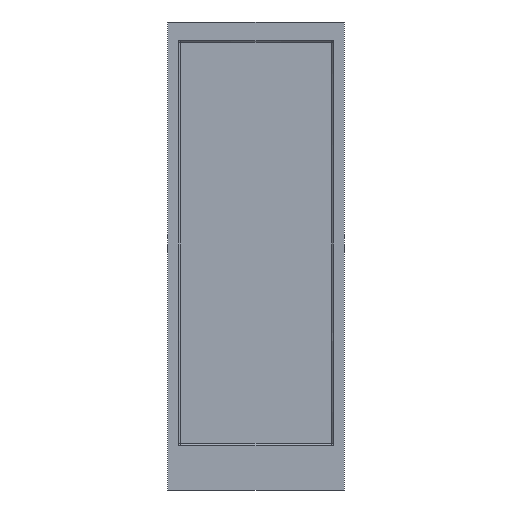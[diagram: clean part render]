
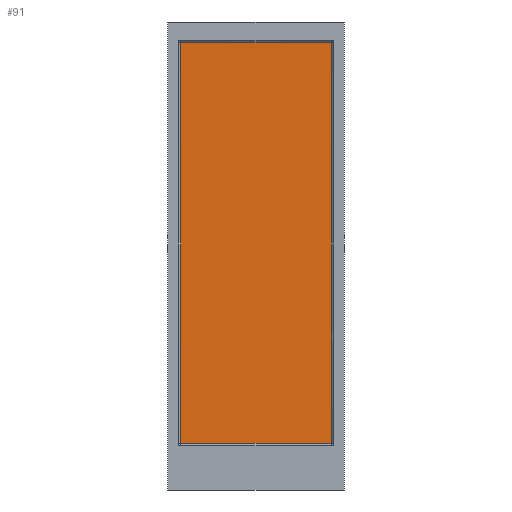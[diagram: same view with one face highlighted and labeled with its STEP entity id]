
A CAD part, front view. The second image highlights one B-rep face of the part: STEP entity #91.
In plain terms, the highlighted planar face has unit normal (0, -1, 0).
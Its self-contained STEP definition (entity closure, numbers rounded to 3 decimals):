
#91=ADVANCED_FACE('',(#201),#1626,.T.);
#201=FACE_OUTER_BOUND('',#311,.T.);
#311=EDGE_LOOP('',(#443,#444,#445,#446));
#443=ORIENTED_EDGE('',*,*,#965,.F.);
#444=ORIENTED_EDGE('',*,*,#962,.F.);
#445=ORIENTED_EDGE('',*,*,#959,.F.);
#446=ORIENTED_EDGE('',*,*,#955,.F.);
#955=EDGE_CURVE('',#1452,#1453,#1219,.T.);
#959=EDGE_CURVE('',#1453,#1456,#1223,.T.);
#962=EDGE_CURVE('',#1456,#1458,#1226,.T.);
#965=EDGE_CURVE('',#1458,#1452,#1229,.T.);
#1219=B_SPLINE_CURVE_WITH_KNOTS('',1,(#2000,#2001),.UNSPECIFIED.,.F.,.F.,
(2,2),(-4.,-3.),.UNSPECIFIED.);
#1223=B_SPLINE_CURVE_WITH_KNOTS('',1,(#2008,#2009),.UNSPECIFIED.,.F.,.F.,
(2,2),(-3.,-2.),.UNSPECIFIED.);
#1226=B_SPLINE_CURVE_WITH_KNOTS('',1,(#2014,#2015),.UNSPECIFIED.,.F.,.F.,
(2,2),(-2.,-1.),.UNSPECIFIED.);
#1229=B_SPLINE_CURVE_WITH_KNOTS('',1,(#2020,#2021),.UNSPECIFIED.,.F.,.F.,
(2,2),(-1.,0.),.UNSPECIFIED.);
#1452=VERTEX_POINT('',#1992);
#1453=VERTEX_POINT('',#1993);
#1456=VERTEX_POINT('',#1996);
#1458=VERTEX_POINT('',#1998);
#1626=PLANE('',#1804);
#1804=AXIS2_PLACEMENT_3D('',#1990,#1897,$);
#1897=DIRECTION('',(0.,-1.,0.));
#1990=CARTESIAN_POINT('',(3019.698,325.598,-1719.299));
#1992=CARTESIAN_POINT('',(2439.698,325.598,-1719.299));
#1993=CARTESIAN_POINT('',(2439.698,325.598,-179.299));
#1996=CARTESIAN_POINT('',(3019.698,325.598,-179.299));
#1998=CARTESIAN_POINT('',(3019.698,325.598,-1719.299));
#2000=CARTESIAN_POINT('',(2439.698,325.598,-1719.299));
#2001=CARTESIAN_POINT('',(2439.698,325.598,-179.299));
#2008=CARTESIAN_POINT('',(2439.698,325.598,-179.299));
#2009=CARTESIAN_POINT('',(3019.698,325.598,-179.299));
#2014=CARTESIAN_POINT('',(3019.698,325.598,-179.299));
#2015=CARTESIAN_POINT('',(3019.698,325.598,-1719.299));
#2020=CARTESIAN_POINT('',(3019.698,325.598,-1719.299));
#2021=CARTESIAN_POINT('',(2439.698,325.598,-1719.299));
